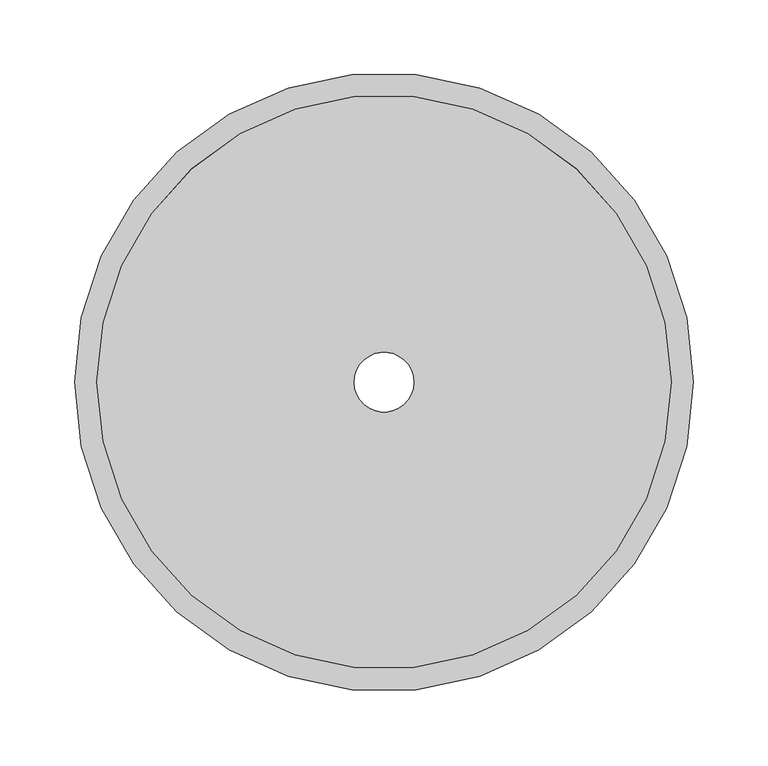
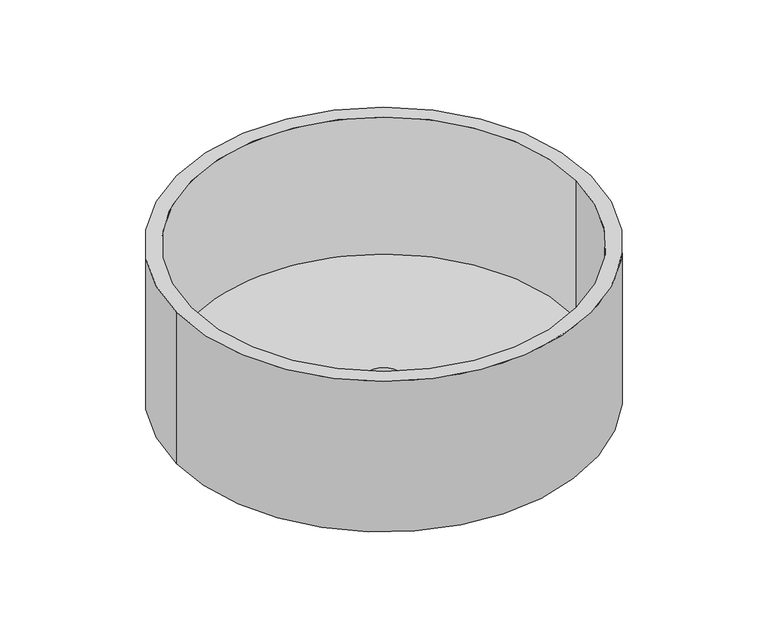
"""IFC4 building model written with IfcOpenShell, lengths in millimetres: flow terminal geometry, Lavabo erie- Castel : Accesorios_baño."""

from ifc_helpers import new_model, si_unit, point, frame, origin, origin_2d, place, context, project, spatial, circle_curve, trimmed, segment, composite_curve, outline, extrude, source, transform, mapped, element, save


def flow_terminal_10fafb41(model_context):
    return source(origin(), model_context, "Body", "SweptSolid", [
        extrude(outline(composite_curve([segment(trimmed(circle_curve(origin_2d(), 192.5), [point((-192.5, 0.0))], [point((192.5, 0.0))], False, "CARTESIAN"), True, "CONTINUOUS"), segment(trimmed(circle_curve(origin_2d(), 192.5), [point((192.5, 0.0))], [point((-192.5, 0.0))], False, "CARTESIAN"), True, "CONTINUOUS")], self_intersect=False), holes=[composite_curve([segment(trimmed(circle_curve(origin_2d(), 20.0), [point((-20.0, 0.0))], [point((20.0, 0.0))], True, "CARTESIAN"), True, "CONTINUOUS"), segment(trimmed(circle_curve(origin_2d(), 20.0), [point((20.0, 0.0))], [point((-20.0, 0.0))], True, "CARTESIAN"), True, "CONTINUOUS")], self_intersect=False)]), frame((0.0, 0.0, 750.0), z_axis=(0.0, 0.0, 1.0), x_axis=(1.0, 0.0, 0.0)), (0.0, 0.0, 1.0), 15.0),
        extrude(outline(composite_curve([segment(trimmed(circle_curve(origin_2d(), 207.5), [point((-207.5, 0.0))], [point((207.5, 0.0))], False, "CARTESIAN"), True, "CONTINUOUS"), segment(trimmed(circle_curve(origin_2d(), 207.5), [point((207.5, 0.0))], [point((-207.5, 0.0))], False, "CARTESIAN"), True, "CONTINUOUS")], self_intersect=False), holes=[composite_curve([segment(trimmed(circle_curve(origin_2d(), 192.5), [point((-192.5, 0.0))], [point((192.5, 0.0))], True, "CARTESIAN"), True, "CONTINUOUS"), segment(trimmed(circle_curve(origin_2d(), 192.5), [point((192.5, 0.0))], [point((-192.5, 0.0))], True, "CARTESIAN"), True, "CONTINUOUS")], self_intersect=False)]), frame((0.0, 0.0, 750.0), z_axis=(0.0, 0.0, 1.0), x_axis=(1.0, 0.0, 0.0)), (0.0, 0.0, 1.0), 160.0),
    ])


if __name__ == "__main__":
    model = new_model("IFC4")
    model_context = context("Model", 3, world=origin())
    ifc_project = project(units=[si_unit("LENGTHUNIT", "METRE", prefix="MILLI")], contexts=[model_context])
    site = spatial("IfcSite", under=ifc_project)
    building = spatial("IfcBuilding", under=site)
    placement = place(None, origin())
    flow_terminal_shape = flow_terminal_10fafb41(model_context)
    element("IfcFlowTerminal", 1, ObjectType="Lavabo erie- Castel : Accesorios_baño", at=placement, inside=building, context=model_context, shape_type="MappedRepresentation", body=[
        mapped(flow_terminal_shape, transform((0.0, 0.0, 0.0), x_axis=(1.0, 0.0, 0.0), y_axis=(0.0, 1.0, 0.0), z_axis=(0.0, 0.0, 1.0))),
    ])
    save(model, "model.ifc")
